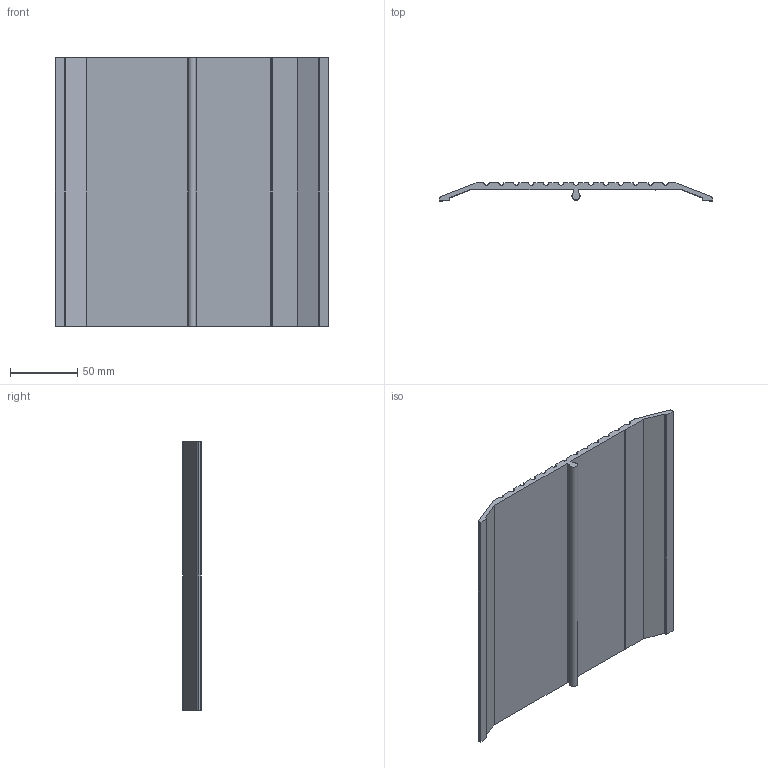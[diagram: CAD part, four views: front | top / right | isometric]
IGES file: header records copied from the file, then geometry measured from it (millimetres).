
Global section: file name: No Iges File Name specified; native system: Autodesk Inventor 2012; preprocessor: AutoDesk Inventor Iges Exporter R2012; author: anna.b; date: 20130614.141609; units: millimetre
Bounding box: 203.2 x 13.46 x 200 mm (x, y, z)
Volume: 179081.4 mm3; surface area: 94847.6 mm2
Topology: 1 solids, 1 shells, 61 faces, 177 edges, 118 vertices
Faces by surface type: plane 32, revolution 18, cylinder 11
